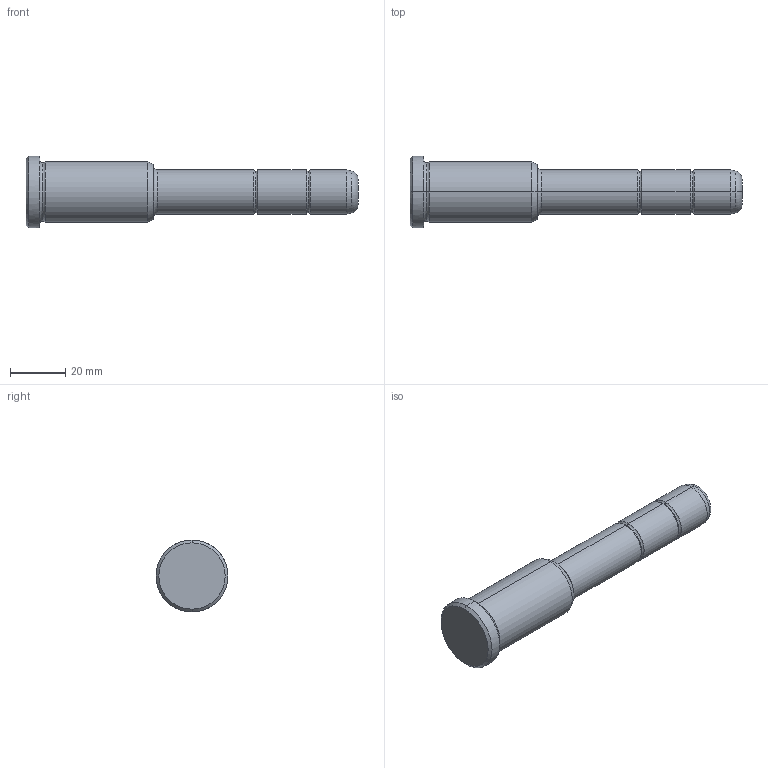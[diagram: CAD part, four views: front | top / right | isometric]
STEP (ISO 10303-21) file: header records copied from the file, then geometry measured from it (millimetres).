
FILE_DESCRIPTION(('CATIA V5 STEP Exchange'),'2;1');
FILE_NAME('C:\Users\Utente\Desktop\IO LAVORO\3D X SITO CF\X SITO\PLASTICA\351\351-16X46X120.stp','2021-08-18T11:21:28+00:00',('none'),('none'),'CATIA Version 5 Release 20 GA (IN-10)','CATIA V5 STEP AP203','none');
FILE_SCHEMA(('CONFIG_CONTROL_DESIGN'));
Length unit declared in the file: millimetre
Products named in the file (1): 351-16X46X120
Bounding box: 120 x 26 x 26 mm (x, y, z)
Volume: 32779.3 mm3; surface area: 7845 mm2
Topology: 1 solids, 1 shells, 36 faces, 102 edges, 70 vertices
Faces by surface type: torus 16, cylinder 10, cone 6, plane 4
Entity records: 1292 total; most frequent: CARTESIAN_POINT 321, ORIENTED_EDGE 204, DIRECTION 166, AXIS2_PLACEMENT_3D 115, EDGE_CURVE 102, CIRCLE 78, VERTEX_POINT 70, EDGE_LOOP 38
